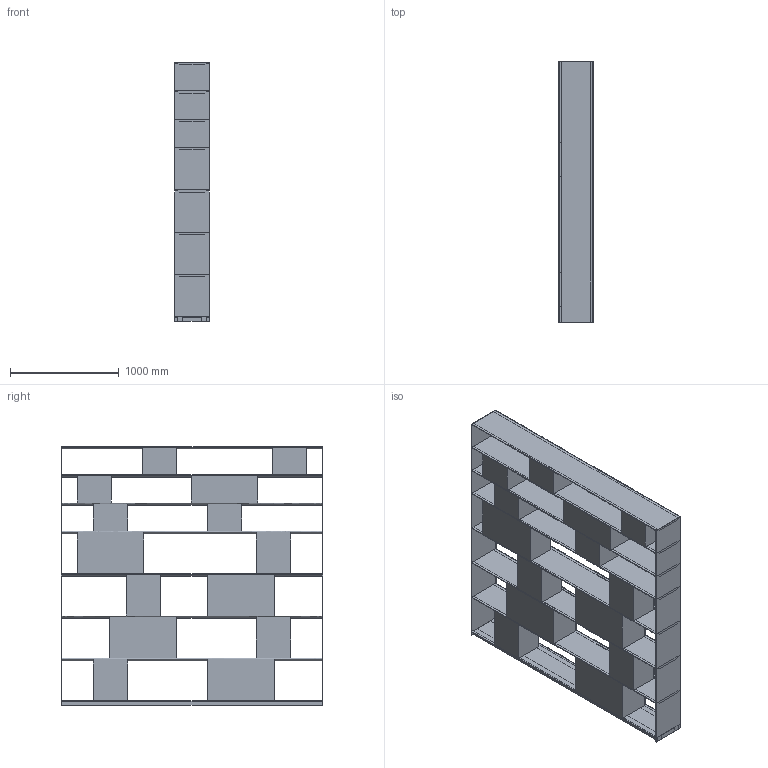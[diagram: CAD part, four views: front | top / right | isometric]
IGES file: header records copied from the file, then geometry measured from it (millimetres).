
Start section: Comment
Global section: file name: Stack - 240 x 238.igs; native system:  By UGS Corp.; preprocessor: XPlus GENERIC/IGES 3.0; author: Author; organization: Title; date: 20141016.143856; units: inch
Bounding box: 319 x 2405 x 2383 mm (x, y, z)
Surface area: 26943065 mm2 (no closed solid volume)
Topology: 0 solids, 0 shells, 334 faces, 1624 edges, 1624 vertices
Faces by surface type: bspline 334
